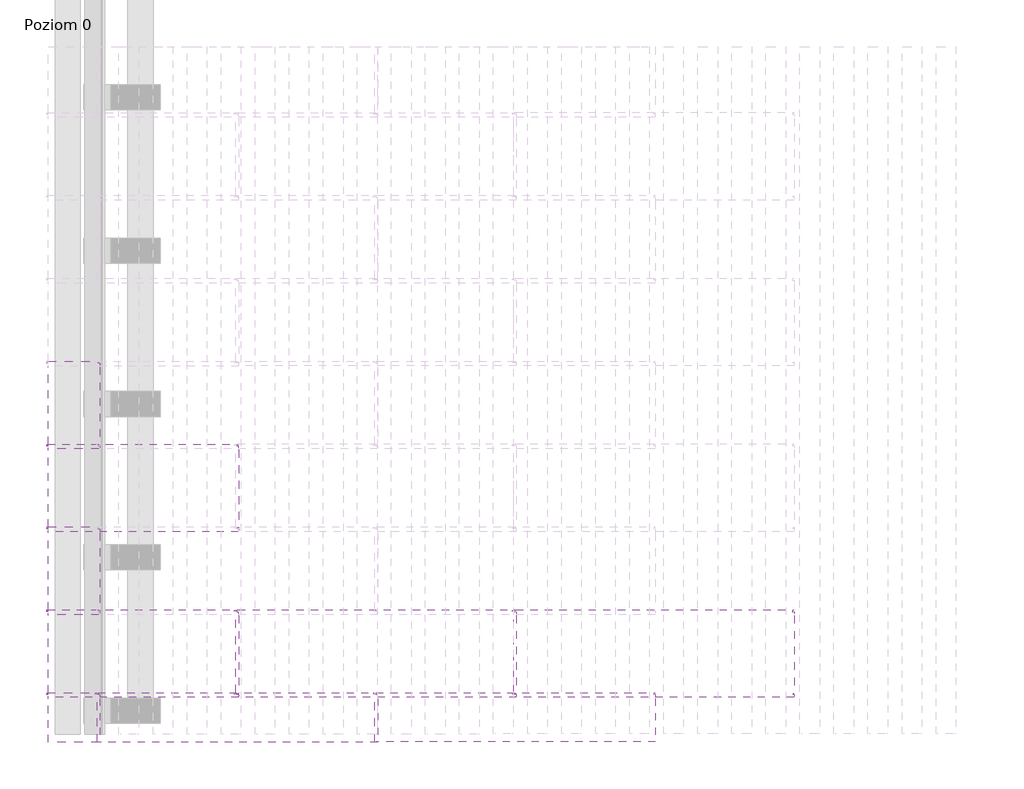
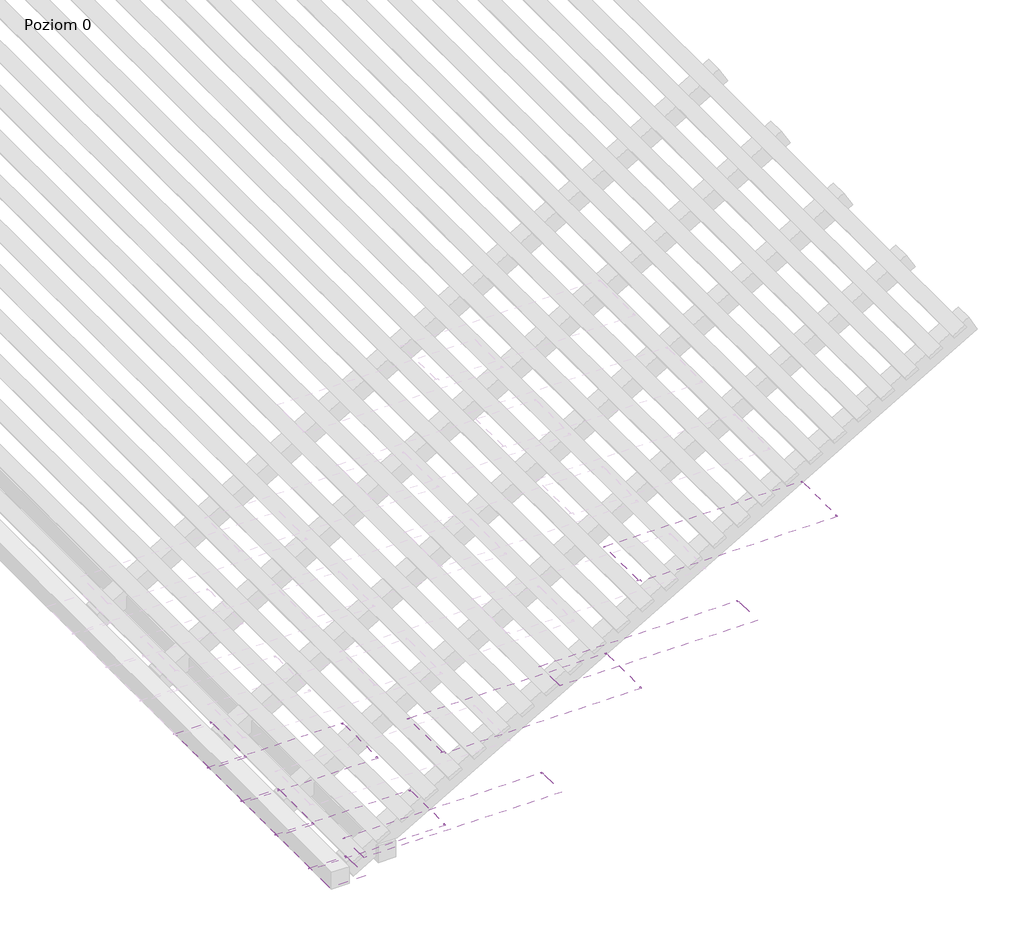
# One storey, part 1 of 4: 11 coverings.
"""IFC4 building model written with IfcOpenShell, lengths in millimetres."""

from ifc_helpers import new_model, si_unit, point, frame, frame_2d, origin, place, context, project, spatial, polyline, circle_curve, trimmed, segment, composite_curve, outline, extrude, transform, mapped, element, save
from components import covering_053faf2b, covering_ce6307ab

model = new_model("IFC4")

# Units and contexts
model_context = context("Model", 3, world=origin())
ifc_project = project(units=[si_unit("LENGTHUNIT", "METRE", prefix="MILLI")], contexts=[model_context])

# Site, building, storey
site = spatial("IfcSite", under=ifc_project)
building = spatial("IfcBuilding", under=site)
storey = spatial("IfcBuildingStorey", under=building, Name="Poziom 0", Elevation=0.0)

# Coverings
placement = place(None, origin())
element("IfcCovering", 1, ObjectType="Zintegrowany dach fotowoltaiczny FIT L.P (pojedynczy arkusz) : Zintegrowany dach fotowoltaiczny FIT L.P (pojedynczy arkusz)", at=placement, inside=storey, context=model_context, shape_type="SweptSolid", body=[
    extrude(outline(composite_curve([segment(polyline([(186.995, -233.3179044), (186.995, -234.3179044), (-88.9778378, -234.3179044), (-90.9778378, -236.3179044), (-113.5688552, -236.3179044)]), True, "CONTINUOUS"), segment(trimmed(circle_curve(frame_2d((-113.5688552, -237.1422545)), 0.82435), [point((-113.5688552, -236.3179044))], [point((-114.3932052, -237.1422545))], True, "CARTESIAN"), True, "CONTINUOUS"), segment(polyline([(-114.3932052, -237.1422545), (-114.3932052, -255.8179044)]), True, "CONTINUOUS"), segment(trimmed(circle_curve(frame_2d((-116.3932052, -255.8179044)), 2.0), [point((-114.3932052, -255.8179044))], [point((-116.3932052, -257.8179044))], False, "CARTESIAN"), True, "CONTINUOUS"), segment(polyline([(-116.3932052, -257.8179044), (-125.2167948, -257.8179044)]), True, "CONTINUOUS"), segment(trimmed(circle_curve(frame_2d((-125.2167948, -255.8179044)), 2.0), [point((-125.2167948, -257.8179044))], [point((-127.2167948, -255.8179044))], False, "CARTESIAN"), True, "CONTINUOUS"), segment(polyline([(-127.2167948, -255.8179044), (-127.2167948, -241.7424613)]), True, "CONTINUOUS"), segment(trimmed(circle_curve(frame_2d((-123.4167948, -241.7424613)), 3.8), [point((-127.2167948, -241.7424613))], [point((-125.1064079, -238.3387564))], False, "CARTESIAN"), True, "CONTINUOUS"), segment(trimmed(circle_curve(frame_2d((-125.6220787, -237.2999439)), 1.1597619), [point((-125.1064079, -238.3387564))], [point((-124.476889, -237.1166736))], True, "CARTESIAN"), True, "CONTINUOUS"), segment(polyline([(-124.476889, -237.1166736), (-125.3133048, -235.5919282), (-124.4365567, -235.1109783), (-123.604575, -236.6276405)]), True, "CONTINUOUS"), segment(trimmed(circle_curve(frame_2d((-125.1220787, -237.2999439)), 1.6597619), [point((-123.604575, -236.6276405))], [point((-124.3840904, -238.7866123))], False, "CARTESIAN"), True, "CONTINUOUS"), segment(trimmed(circle_curve(frame_2d((-122.9167948, -241.7424613)), 3.3), [point((-124.3840904, -238.7866123))], [point((-126.2167948, -241.7424613))], True, "CARTESIAN"), True, "CONTINUOUS"), segment(polyline([(-126.2167948, -241.7424613), (-126.2167948, -255.3179044)]), True, "CONTINUOUS"), segment(trimmed(circle_curve(frame_2d((-124.7167948, -255.3179044)), 1.5), [point((-126.2167948, -255.3179044))], [point((-124.7167948, -256.8179044))], True, "CARTESIAN"), True, "CONTINUOUS"), segment(polyline([(-124.7167948, -256.8179044), (-116.8932052, -256.8179044)]), True, "CONTINUOUS"), segment(trimmed(circle_curve(frame_2d((-116.8932052, -255.3179044)), 1.5), [point((-116.8932052, -256.8179044))], [point((-115.3932052, -255.3179044))], True, "CARTESIAN"), True, "CONTINUOUS"), segment(polyline([(-115.3932052, -255.3179044), (-115.3932052, -237.0542841)]), True, "CONTINUOUS"), segment(trimmed(circle_curve(frame_2d((-113.5943299, -237.1179045)), 1.8), [point((-115.3932052, -237.0542841))], [point((-113.5943299, -235.3179044))], False, "CARTESIAN"), True, "CONTINUOUS"), segment(polyline([(-113.5943299, -235.3179044), (-91.3920514, -235.3179044), (-89.3920514, -233.3179044), (186.995, -233.3179044)]), True, "CONTINUOUS")], self_intersect=False)), frame((-4911.3047573, -8515.0145918, 810.3905312), z_axis=(0.8660254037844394, 0.0, 0.4999999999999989), x_axis=(0.0, -1.0, 0.0)), (0.0, 0.0, 1.0), 376.4773133),
])
element("IfcCovering", 2, ObjectType="Zintegrowany dach fotowoltaiczny FIT L.P (pojedynczy arkusz) : Zintegrowany dach fotowoltaiczny FIT L.P (pojedynczy arkusz)", at=placement, inside=storey, context=model_context, shape_type="SweptSolid", body=[
    extrude(outline(composite_curve([segment(polyline([(-502.4735079, 0.0), (-504.4735079, -2.0), (-527.0645253, -2.0)]), True, "CONTINUOUS"), segment(trimmed(circle_curve(frame_2d((-527.0645253, -2.82435)), 0.82435), [point((-527.0645253, -2.0))], [point((-527.8888753, -2.82435))], True, "CARTESIAN"), True, "CONTINUOUS"), segment(polyline([(-527.8888753, -2.82435), (-527.8888753, -21.4999999)]), True, "CONTINUOUS"), segment(trimmed(circle_curve(frame_2d((-529.8888753, -21.4999999)), 2.0), [point((-527.8888753, -21.4999999))], [point((-529.8888753, -23.5))], False, "CARTESIAN"), True, "CONTINUOUS"), segment(polyline([(-529.8888753, -23.5), (-538.7124649, -23.5)]), True, "CONTINUOUS"), segment(trimmed(circle_curve(frame_2d((-538.7124649, -21.4999999)), 2.0), [point((-538.7124649, -23.5))], [point((-540.7124649, -21.4999999))], False, "CARTESIAN"), True, "CONTINUOUS"), segment(polyline([(-540.7124649, -21.4999999), (-540.7124649, -7.4245569)]), True, "CONTINUOUS"), segment(trimmed(circle_curve(frame_2d((-536.9124649, -7.4245569)), 3.8), [point((-540.7124649, -7.4245569))], [point((-538.602078, -4.0208519))], False, "CARTESIAN"), True, "CONTINUOUS"), segment(trimmed(circle_curve(frame_2d((-539.1177488, -2.9820394)), 1.1597619), [point((-538.602078, -4.0208519))], [point((-537.9725591, -2.798769))], True, "CARTESIAN"), True, "CONTINUOUS"), segment(polyline([(-537.9725591, -2.798769), (-538.8089749, -1.2740237), (-537.9322268, -0.7930738), (-537.1002451, -2.3097359)]), True, "CONTINUOUS"), segment(trimmed(circle_curve(frame_2d((-538.6177488, -2.9820394)), 1.6597619), [point((-537.1002451, -2.3097359))], [point((-537.8797605, -4.4687078))], False, "CARTESIAN"), True, "CONTINUOUS"), segment(trimmed(circle_curve(frame_2d((-536.4124649, -7.4245569)), 3.3), [point((-537.8797605, -4.4687078))], [point((-539.7124649, -7.4245569))], True, "CARTESIAN"), True, "CONTINUOUS"), segment(polyline([(-539.7124649, -7.4245569), (-539.7124649, -20.9999999)]), True, "CONTINUOUS"), segment(trimmed(circle_curve(frame_2d((-538.2124649, -20.9999999)), 1.5), [point((-539.7124649, -20.9999999))], [point((-538.2124649, -22.4999999))], True, "CARTESIAN"), True, "CONTINUOUS"), segment(polyline([(-538.2124649, -22.4999999), (-530.3888753, -22.4999999)]), True, "CONTINUOUS"), segment(trimmed(circle_curve(frame_2d((-530.3888753, -20.9999999)), 1.5), [point((-530.3888753, -22.4999999))], [point((-528.8888753, -20.9999999))], True, "CARTESIAN"), True, "CONTINUOUS"), segment(polyline([(-528.8888753, -20.9999999), (-528.8888753, -2.7363796)]), True, "CONTINUOUS"), segment(trimmed(circle_curve(frame_2d((-527.09, -2.8)), 1.8), [point((-528.8888753, -2.7363796))], [point((-527.09, -1.0))], False, "CARTESIAN"), True, "CONTINUOUS"), segment(polyline([(-527.09, -1.0), (-504.8877215, -1.0), (-502.8877215, 1.0), (-226.5006701, 1.0), (-226.5006701, 0.0), (-502.4735079, 0.0)]), True, "CONTINUOUS")], self_intersect=False)), frame((-4702.4247923, -8928.5102619, 1201.5544457), z_axis=(0.8660254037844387, 0.0, 0.5), x_axis=(0.0, -1.0, 0.0)), (0.0, 0.0, 1.0), 2040.0),
    extrude(outline(composite_curve([segment(trimmed(circle_curve(frame_2d((49.17565, -11.6479396)), 0.82435), [point((49.9999999, -11.6479396))], [point((49.17565, -10.8235896))], True, "CARTESIAN"), True, "CONTINUOUS"), segment(polyline([(49.17565, -10.8235896), (30.0, -10.8235896)]), True, "CONTINUOUS"), segment(trimmed(circle_curve(frame_2d((30.0, -8.8235896)), 2.0), [point((30.0, -10.8235896))], [point((28.0, -8.8235896))], False, "CARTESIAN"), True, "CONTINUOUS"), segment(polyline([(28.0, -8.8235896), (28.0, -4.0)]), True, "CONTINUOUS"), segment(trimmed(circle_curve(frame_2d((30.0, -4.0)), 2.0), [point((28.0, -4.0))], [point((30.0, -2.0))], False, "CARTESIAN"), True, "CONTINUOUS"), segment(polyline([(30.0, -2.0), (42.075443, -2.0)]), True, "CONTINUOUS"), segment(trimmed(circle_curve(frame_2d((42.075443, -5.8)), 3.8), [point((42.075443, -2.0))], [point((45.479148, -4.1103869))], False, "CARTESIAN"), True, "CONTINUOUS"), segment(trimmed(circle_curve(frame_2d((46.5179605, -3.5947161)), 1.1597619), [point((45.479148, -4.1103869))], [point((46.7012308, -4.7399058))], True, "CARTESIAN"), True, "CONTINUOUS"), segment(polyline([(46.7012308, -4.7399058), (48.2259762, -3.90349), (48.706926, -4.7802381), (47.190264, -5.6122198)]), True, "CONTINUOUS"), segment(trimmed(circle_curve(frame_2d((46.5179605, -4.0947161)), 1.6597619), [point((47.190264, -5.6122198))], [point((45.0312921, -4.8327044))], False, "CARTESIAN"), True, "CONTINUOUS"), segment(trimmed(circle_curve(frame_2d((42.075443, -6.3)), 3.3), [point((45.0312921, -4.8327044))], [point((42.075443, -3.0))], True, "CARTESIAN"), True, "CONTINUOUS"), segment(polyline([(42.075443, -3.0), (30.5, -3.0)]), True, "CONTINUOUS"), segment(trimmed(circle_curve(frame_2d((30.5, -4.5)), 1.5), [point((30.5, -3.0))], [point((29.0, -4.5))], True, "CARTESIAN"), True, "CONTINUOUS"), segment(polyline([(29.0, -4.5), (29.0, -8.3235896)]), True, "CONTINUOUS"), segment(trimmed(circle_curve(frame_2d((30.5, -8.3235896)), 1.5), [point((29.0, -8.3235896))], [point((30.5, -9.8235896))], True, "CARTESIAN"), True, "CONTINUOUS"), segment(polyline([(30.5, -9.8235896), (49.2636204, -9.8235896)]), True, "CONTINUOUS"), segment(trimmed(circle_curve(frame_2d((49.1999999, -11.6224649)), 1.8), [point((49.2636204, -9.8235896))], [point((50.9999999, -11.6224649))], False, "CARTESIAN"), True, "CONTINUOUS"), segment(polyline([(50.9999999, -11.6224649), (50.9999999, -314.2117948), (49.9999999, -314.2117948), (49.9999999, -11.6479396)]), True, "CONTINUOUS")], self_intersect=False)), frame((-4744.2453003, -8387.797797, 1233.9896904), z_axis=(0.8660254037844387, 0.0, 0.5), x_axis=(0.5, 0.0, -0.8660254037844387)), (0.0, 0.0, 1.0), 30.0),
])
element("IfcCovering", 3, ObjectType="Zintegrowany dach fotowoltaiczny FIT L.P (pojedynczy arkusz) : Zintegrowany dach fotowoltaiczny FIT L.P (pojedynczy arkusz)", at=placement, inside=storey, context=model_context, shape_type="SweptSolid", body=[
    extrude(outline(composite_curve([segment(polyline([(-502.4735079, 0.0), (-504.4735079, -2.0), (-527.0645253, -2.0)]), True, "CONTINUOUS"), segment(trimmed(circle_curve(frame_2d((-527.0645253, -2.82435)), 0.82435), [point((-527.0645253, -2.0))], [point((-527.8888753, -2.82435))], True, "CARTESIAN"), True, "CONTINUOUS"), segment(polyline([(-527.8888753, -2.82435), (-527.8888753, -21.4999999)]), True, "CONTINUOUS"), segment(trimmed(circle_curve(frame_2d((-529.8888753, -21.4999999)), 2.0), [point((-527.8888753, -21.4999999))], [point((-529.8888753, -23.5))], False, "CARTESIAN"), True, "CONTINUOUS"), segment(polyline([(-529.8888753, -23.5), (-538.7124649, -23.5)]), True, "CONTINUOUS"), segment(trimmed(circle_curve(frame_2d((-538.7124649, -21.4999999)), 2.0), [point((-538.7124649, -23.5))], [point((-540.7124649, -21.4999999))], False, "CARTESIAN"), True, "CONTINUOUS"), segment(polyline([(-540.7124649, -21.4999999), (-540.7124649, -7.4245569)]), True, "CONTINUOUS"), segment(trimmed(circle_curve(frame_2d((-536.9124649, -7.4245569)), 3.8), [point((-540.7124649, -7.4245569))], [point((-538.602078, -4.0208519))], False, "CARTESIAN"), True, "CONTINUOUS"), segment(trimmed(circle_curve(frame_2d((-539.1177488, -2.9820395)), 1.1597619), [point((-538.602078, -4.0208519))], [point((-537.9725591, -2.7987691))], True, "CARTESIAN"), True, "CONTINUOUS"), segment(polyline([(-537.9725591, -2.7987691), (-538.8089749, -1.2740237), (-537.9322268, -0.7930739), (-537.1002451, -2.309736)]), True, "CONTINUOUS"), segment(trimmed(circle_curve(frame_2d((-538.6177488, -2.9820395)), 1.6597619), [point((-537.1002451, -2.309736))], [point((-537.8797605, -4.4687079))], False, "CARTESIAN"), True, "CONTINUOUS"), segment(trimmed(circle_curve(frame_2d((-536.4124649, -7.4245569)), 3.3), [point((-537.8797605, -4.4687079))], [point((-539.7124649, -7.4245569))], True, "CARTESIAN"), True, "CONTINUOUS"), segment(polyline([(-539.7124649, -7.4245569), (-539.7124649, -20.9999999)]), True, "CONTINUOUS"), segment(trimmed(circle_curve(frame_2d((-538.2124649, -20.9999999)), 1.5), [point((-539.7124649, -20.9999999))], [point((-538.2124649, -22.4999999))], True, "CARTESIAN"), True, "CONTINUOUS"), segment(polyline([(-538.2124649, -22.4999999), (-530.3888753, -22.4999999)]), True, "CONTINUOUS"), segment(trimmed(circle_curve(frame_2d((-530.3888753, -20.9999999)), 1.5), [point((-530.3888753, -22.4999999))], [point((-528.8888753, -20.9999999))], True, "CARTESIAN"), True, "CONTINUOUS"), segment(polyline([(-528.8888753, -20.9999999), (-528.8888753, -2.7363796)]), True, "CONTINUOUS"), segment(trimmed(circle_curve(frame_2d((-527.09, -2.8)), 1.8), [point((-528.8888753, -2.7363796))], [point((-527.09, -1.0))], False, "CARTESIAN"), True, "CONTINUOUS"), segment(polyline([(-527.09, -1.0), (-504.8877215, -1.0), (-502.8877215, 1.0), (-226.5006701, 1.0), (-226.5006701, 0.0), (-502.4735079, 0.0)]), True, "CONTINUOUS")], self_intersect=False)), frame((-2935.7329685, -8928.5102619, 2221.5544457), z_axis=(0.8660254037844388, 0.0, 0.49999999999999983), x_axis=(0.0, -1.0, 0.0)), (0.0, 0.0, 1.0), 2040.0),
    extrude(outline(composite_curve([segment(trimmed(circle_curve(frame_2d((49.17565, -11.6479396)), 0.82435), [point((49.9999999, -11.6479396))], [point((49.17565, -10.8235896))], True, "CARTESIAN"), True, "CONTINUOUS"), segment(polyline([(49.17565, -10.8235896), (30.0, -10.8235896)]), True, "CONTINUOUS"), segment(trimmed(circle_curve(frame_2d((30.0, -8.8235896)), 2.0), [point((30.0, -10.8235896))], [point((28.0, -8.8235896))], False, "CARTESIAN"), True, "CONTINUOUS"), segment(polyline([(28.0, -8.8235896), (28.0, -4.0)]), True, "CONTINUOUS"), segment(trimmed(circle_curve(frame_2d((30.0, -4.0)), 2.0), [point((28.0, -4.0))], [point((30.0, -2.0))], False, "CARTESIAN"), True, "CONTINUOUS"), segment(polyline([(30.0, -2.0), (42.075443, -2.0)]), True, "CONTINUOUS"), segment(trimmed(circle_curve(frame_2d((42.075443, -5.8)), 3.8), [point((42.075443, -2.0))], [point((45.479148, -4.1103869))], False, "CARTESIAN"), True, "CONTINUOUS"), segment(trimmed(circle_curve(frame_2d((46.5179605, -3.5947161)), 1.1597619), [point((45.479148, -4.1103869))], [point((46.7012308, -4.7399058))], True, "CARTESIAN"), True, "CONTINUOUS"), segment(polyline([(46.7012308, -4.7399058), (48.2259762, -3.90349), (48.706926, -4.7802381), (47.190264, -5.6122198)]), True, "CONTINUOUS"), segment(trimmed(circle_curve(frame_2d((46.5179605, -4.0947161)), 1.6597619), [point((47.190264, -5.6122198))], [point((45.0312921, -4.8327044))], False, "CARTESIAN"), True, "CONTINUOUS"), segment(trimmed(circle_curve(frame_2d((42.075443, -6.3)), 3.3), [point((45.0312921, -4.8327044))], [point((42.075443, -3.0))], True, "CARTESIAN"), True, "CONTINUOUS"), segment(polyline([(42.075443, -3.0), (30.5, -3.0)]), True, "CONTINUOUS"), segment(trimmed(circle_curve(frame_2d((30.5, -4.5)), 1.5), [point((30.5, -3.0))], [point((29.0, -4.5))], True, "CARTESIAN"), True, "CONTINUOUS"), segment(polyline([(29.0, -4.5), (29.0, -8.3235896)]), True, "CONTINUOUS"), segment(trimmed(circle_curve(frame_2d((30.5, -8.3235896)), 1.5), [point((29.0, -8.3235896))], [point((30.5, -9.8235896))], True, "CARTESIAN"), True, "CONTINUOUS"), segment(polyline([(30.5, -9.8235896), (49.2636204, -9.8235896)]), True, "CONTINUOUS"), segment(trimmed(circle_curve(frame_2d((49.1999999, -11.6224649)), 1.8), [point((49.2636204, -9.8235896))], [point((50.9999999, -11.6224649))], False, "CARTESIAN"), True, "CONTINUOUS"), segment(polyline([(50.9999999, -11.6224649), (50.9999999, -314.2117948), (49.9999999, -314.2117948), (49.9999999, -11.6479396)]), True, "CONTINUOUS")], self_intersect=False)), frame((-2977.5534766, -8387.797797, 2253.9896904), z_axis=(0.8660254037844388, 0.0, 0.49999999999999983), x_axis=(0.49999999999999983, 0.0, -0.8660254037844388)), (0.0, 0.0, 1.0), 30.0),
])
element("IfcCovering", 4, ObjectType="Zintegrowany dach fotowoltaiczny FIT L.P (pojedynczy arkusz) : Zintegrowany dach fotowoltaiczny FIT L.P (pojedynczy arkusz)", at=placement, inside=storey, context=model_context, shape_type="SweptSolid", body=[
    extrude(outline(composite_curve([segment(polyline([(288.0882052, -764.3254516), (270.8006701, -764.3254516)]), True, "CONTINUOUS"), segment(trimmed(circle_curve(frame_2d((270.8006701, -767.1254516)), 2.8), [point((270.8006701, -764.3254516))], [point((268.0006701, -767.1254516))], True, "CARTESIAN"), True, "CONTINUOUS"), segment(polyline([(268.0006701, -767.1254516), (268.0006701, -784.9194843)]), True, "CONTINUOUS"), segment(trimmed(circle_curve(frame_2d((266.3873432, -784.7092324)), 1.6269694), [point((268.0006701, -784.9194843))], [point((264.9716419, -785.5109926))], False, "CARTESIAN"), True, "CONTINUOUS"), segment(polyline([(264.9716419, -785.5109926), (259.5147607, -772.9478756)]), True, "CONTINUOUS"), segment(trimmed(circle_curve(frame_2d((261.4782052, -771.7500084)), 2.3), [point((259.5147607, -772.9478756))], [point((260.424286, -769.705686))], False, "CARTESIAN"), True, "CONTINUOUS"), segment(polyline([(260.424286, -769.705686), (262.0969852, -769.0301624)]), True, "CONTINUOUS"), segment(trimmed(circle_curve(frame_2d((261.7598094, -768.195264)), 0.9004126), [point((262.0969852, -769.0301624))], [point((262.5492444, -767.7622108))], True, "CARTESIAN"), True, "CONTINUOUS"), segment(polyline([(262.5492444, -767.7622108), (260.6639723, -764.3254516), (-231.6728378, -764.3254516), (-233.6728378, -766.3254516), (-256.2638552, -766.3254516)]), True, "CONTINUOUS"), segment(trimmed(circle_curve(frame_2d((-256.2638552, -767.1498016)), 0.82435), [point((-256.2638552, -766.3254516))], [point((-257.0882052, -767.1498016))], True, "CARTESIAN"), True, "CONTINUOUS"), segment(polyline([(-257.0882052, -767.1498016), (-257.0882052, -785.8254516)]), True, "CONTINUOUS"), segment(trimmed(circle_curve(frame_2d((-259.0882052, -785.8254516)), 2.0), [point((-257.0882052, -785.8254516))], [point((-259.0882052, -787.8254516))], False, "CARTESIAN"), True, "CONTINUOUS"), segment(polyline([(-259.0882052, -787.8254516), (-267.9117948, -787.8254516)]), True, "CONTINUOUS"), segment(trimmed(circle_curve(frame_2d((-267.9117948, -785.8254516)), 2.0), [point((-267.9117948, -787.8254516))], [point((-269.9117948, -785.8254516))], False, "CARTESIAN"), True, "CONTINUOUS"), segment(polyline([(-269.9117948, -785.8254516), (-269.9117948, -771.7500084)]), True, "CONTINUOUS"), segment(trimmed(circle_curve(frame_2d((-266.1117948, -771.7500084)), 3.8), [point((-269.9117948, -771.7500084))], [point((-267.8014079, -768.3463036))], False, "CARTESIAN"), True, "CONTINUOUS"), segment(trimmed(circle_curve(frame_2d((-268.3170787, -767.3074911)), 1.1597619), [point((-267.8014079, -768.3463036))], [point((-267.171889, -767.1242207))], True, "CARTESIAN"), True, "CONTINUOUS"), segment(polyline([(-267.171889, -767.1242207), (-268.0083048, -765.5994754), (-267.1315567, -765.1185255), (-266.299575, -766.6351876)]), True, "CONTINUOUS"), segment(trimmed(circle_curve(frame_2d((-267.8170787, -767.3074911)), 1.6597619), [point((-266.299575, -766.6351876))], [point((-267.0790904, -768.7941595))], False, "CARTESIAN"), True, "CONTINUOUS"), segment(trimmed(circle_curve(frame_2d((-265.6117948, -771.7500084)), 3.3), [point((-267.0790904, -768.7941595))], [point((-268.9117948, -771.7500084))], True, "CARTESIAN"), True, "CONTINUOUS"), segment(polyline([(-268.9117948, -771.7500084), (-268.9117948, -785.3254516)]), True, "CONTINUOUS"), segment(trimmed(circle_curve(frame_2d((-267.4117948, -785.3254516)), 1.5), [point((-268.9117948, -785.3254516))], [point((-267.4117948, -786.8254516))], True, "CARTESIAN"), True, "CONTINUOUS"), segment(polyline([(-267.4117948, -786.8254516), (-259.5882052, -786.8254516)]), True, "CONTINUOUS"), segment(trimmed(circle_curve(frame_2d((-259.5882052, -785.3254516)), 1.5), [point((-259.5882052, -786.8254516))], [point((-258.0882052, -785.3254516))], True, "CARTESIAN"), True, "CONTINUOUS"), segment(polyline([(-258.0882052, -785.3254516), (-258.0882052, -767.0618312)]), True, "CONTINUOUS"), segment(trimmed(circle_curve(frame_2d((-256.2893299, -767.1254516)), 1.8), [point((-258.0882052, -767.0618312))], [point((-256.2893299, -765.3254516))], False, "CARTESIAN"), True, "CONTINUOUS"), segment(polyline([(-256.2893299, -765.3254516), (-234.0870514, -765.3254516), (-232.0870514, -763.3254516), (260.3034181, -763.3254516)]), True, "CONTINUOUS"), segment(trimmed(circle_curve(frame_2d((260.0800912, -765.3129437)), 2.0), [point((260.3034181, -763.3254516))], [point((261.7119395, -764.1566258))], False, "CARTESIAN"), True, "CONTINUOUS"), segment(polyline([(261.7119395, -764.1566258), (263.6966367, -767.774632)]), True, "CONTINUOUS"), segment(trimmed(circle_curve(frame_2d((262.4688276, -768.4481602)), 1.4004126), [point((263.6966367, -767.774632))], [point((262.9932374, -769.7466784))], False, "CARTESIAN"), True, "CONTINUOUS"), segment(polyline([(262.9932374, -769.7466784), (260.8475944, -770.6132015)]), True, "CONTINUOUS"), segment(trimmed(circle_curve(frame_2d((261.4782052, -771.7500084)), 1.3), [point((260.8475944, -770.6132015))], [point((260.4005072, -772.4770346))], True, "CARTESIAN"), True, "CONTINUOUS"), segment(polyline([(260.4005072, -772.4770346), (265.8628688, -785.0527688)]), True, "CONTINUOUS"), segment(trimmed(circle_curve(frame_2d((266.3873432, -784.7092324)), 0.6269694), [point((265.8628688, -785.0527688))], [point((267.0006701, -784.8393124))], True, "CARTESIAN"), True, "CONTINUOUS"), segment(polyline([(267.0006701, -784.8393124), (267.0006701, -767.1254516)]), True, "CONTINUOUS"), segment(trimmed(circle_curve(frame_2d((270.8006701, -767.1254516)), 3.8), [point((267.0006701, -767.1254516))], [point((270.8006701, -763.3254516))], False, "CARTESIAN"), True, "CONTINUOUS"), segment(polyline([(270.8006701, -763.3254516), (288.0882052, -763.3254516), (288.0882052, -764.3254516)]), True, "CONTINUOUS")], self_intersect=False)), frame((-4646.3009837, -8130.7095918, 351.3905312), z_axis=(0.8660254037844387, 0.0, 0.49999999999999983), x_axis=(0.0, -1.0, 0.0)), (0.0, 0.0, 1.0), 1396.4773133),
])
element("IfcCovering", 5, ObjectType="Zintegrowany dach fotowoltaiczny FIT L.P (pojedynczy arkusz) : Zintegrowany dach fotowoltaiczny FIT L.P (pojedynczy arkusz)", at=placement, inside=storey, context=model_context, shape_type="SweptSolid", body=[
    extrude(outline(composite_curve([segment(polyline([(288.0882052, -234.3179044), (270.8006701, -234.3179044)]), True, "CONTINUOUS"), segment(trimmed(circle_curve(frame_2d((270.8006701, -237.1179045)), 2.8), [point((270.8006701, -234.3179044))], [point((268.0006701, -237.1179045))], True, "CARTESIAN"), True, "CONTINUOUS"), segment(polyline([(268.0006701, -237.1179045), (268.0006701, -254.9119372)]), True, "CONTINUOUS"), segment(trimmed(circle_curve(frame_2d((266.3873432, -254.7016853)), 1.6269694), [point((268.0006701, -254.9119372))], [point((264.9716419, -255.5034454))], False, "CARTESIAN"), True, "CONTINUOUS"), segment(polyline([(264.9716419, -255.5034454), (259.5147607, -242.9403285)]), True, "CONTINUOUS"), segment(trimmed(circle_curve(frame_2d((261.4782052, -241.7424613)), 2.3), [point((259.5147607, -242.9403285))], [point((260.424286, -239.6981389))], False, "CARTESIAN"), True, "CONTINUOUS"), segment(polyline([(260.424286, -239.6981389), (262.0969852, -239.0226153)]), True, "CONTINUOUS"), segment(trimmed(circle_curve(frame_2d((261.7598094, -238.1877169)), 0.9004126), [point((262.0969852, -239.0226153))], [point((262.5492444, -237.7546636))], True, "CARTESIAN"), True, "CONTINUOUS"), segment(polyline([(262.5492444, -237.7546636), (260.6639723, -234.3179044), (-231.6728378, -234.3179044), (-233.6728378, -236.3179044), (-256.2638552, -236.3179044)]), True, "CONTINUOUS"), segment(trimmed(circle_curve(frame_2d((-256.2638552, -237.1422545)), 0.82435), [point((-256.2638552, -236.3179044))], [point((-257.0882052, -237.1422545))], True, "CARTESIAN"), True, "CONTINUOUS"), segment(polyline([(-257.0882052, -237.1422545), (-257.0882052, -255.8179044)]), True, "CONTINUOUS"), segment(trimmed(circle_curve(frame_2d((-259.0882052, -255.8179044)), 2.0), [point((-257.0882052, -255.8179044))], [point((-259.0882052, -257.8179044))], False, "CARTESIAN"), True, "CONTINUOUS"), segment(polyline([(-259.0882052, -257.8179044), (-267.9117948, -257.8179044)]), True, "CONTINUOUS"), segment(trimmed(circle_curve(frame_2d((-267.9117948, -255.8179044)), 2.0), [point((-267.9117948, -257.8179044))], [point((-269.9117948, -255.8179044))], False, "CARTESIAN"), True, "CONTINUOUS"), segment(polyline([(-269.9117948, -255.8179044), (-269.9117948, -241.7424613)]), True, "CONTINUOUS"), segment(trimmed(circle_curve(frame_2d((-266.1117948, -241.7424613)), 3.8), [point((-269.9117948, -241.7424613))], [point((-267.8014079, -238.3387564))], False, "CARTESIAN"), True, "CONTINUOUS"), segment(trimmed(circle_curve(frame_2d((-268.3170787, -237.2999439)), 1.1597619), [point((-267.8014079, -238.3387564))], [point((-267.171889, -237.1166736))], True, "CARTESIAN"), True, "CONTINUOUS"), segment(polyline([(-267.171889, -237.1166736), (-268.0083048, -235.5919282), (-267.1315567, -235.1109783), (-266.299575, -236.6276405)]), True, "CONTINUOUS"), segment(trimmed(circle_curve(frame_2d((-267.8170787, -237.2999439)), 1.6597619), [point((-266.299575, -236.6276405))], [point((-267.0790904, -238.7866123))], False, "CARTESIAN"), True, "CONTINUOUS"), segment(trimmed(circle_curve(frame_2d((-265.6117948, -241.7424613)), 3.3), [point((-267.0790904, -238.7866123))], [point((-268.9117948, -241.7424613))], True, "CARTESIAN"), True, "CONTINUOUS"), segment(polyline([(-268.9117948, -241.7424613), (-268.9117948, -255.3179044)]), True, "CONTINUOUS"), segment(trimmed(circle_curve(frame_2d((-267.4117948, -255.3179044)), 1.5), [point((-268.9117948, -255.3179044))], [point((-267.4117948, -256.8179044))], True, "CARTESIAN"), True, "CONTINUOUS"), segment(polyline([(-267.4117948, -256.8179044), (-259.5882052, -256.8179044)]), True, "CONTINUOUS"), segment(trimmed(circle_curve(frame_2d((-259.5882052, -255.3179044)), 1.5), [point((-259.5882052, -256.8179044))], [point((-258.0882052, -255.3179044))], True, "CARTESIAN"), True, "CONTINUOUS"), segment(polyline([(-258.0882052, -255.3179044), (-258.0882052, -237.0542841)]), True, "CONTINUOUS"), segment(trimmed(circle_curve(frame_2d((-256.2893299, -237.1179045)), 1.8), [point((-258.0882052, -237.0542841))], [point((-256.2893299, -235.3179044))], False, "CARTESIAN"), True, "CONTINUOUS"), segment(polyline([(-256.2893299, -235.3179044), (-234.0870514, -235.3179044), (-232.0870514, -233.3179044), (260.3034181, -233.3179044)]), True, "CONTINUOUS"), segment(trimmed(circle_curve(frame_2d((260.0800912, -235.3053966)), 2.0), [point((260.3034181, -233.3179044))], [point((261.7119395, -234.1490787))], False, "CARTESIAN"), True, "CONTINUOUS"), segment(polyline([(261.7119395, -234.1490787), (263.6966367, -237.7670849)]), True, "CONTINUOUS"), segment(trimmed(circle_curve(frame_2d((262.4688276, -238.440613)), 1.4004126), [point((263.6966367, -237.7670849))], [point((262.9932374, -239.7391313))], False, "CARTESIAN"), True, "CONTINUOUS"), segment(polyline([(262.9932374, -239.7391313), (260.8475944, -240.6056544)]), True, "CONTINUOUS"), segment(trimmed(circle_curve(frame_2d((261.4782052, -241.7424613)), 1.3), [point((260.8475944, -240.6056544))], [point((260.4005072, -242.4694875))], True, "CARTESIAN"), True, "CONTINUOUS"), segment(polyline([(260.4005072, -242.4694875), (265.8628688, -255.0452217)]), True, "CONTINUOUS"), segment(trimmed(circle_curve(frame_2d((266.3873432, -254.7016853)), 0.6269694), [point((265.8628688, -255.0452217))], [point((267.0006701, -254.8317652))], True, "CARTESIAN"), True, "CONTINUOUS"), segment(polyline([(267.0006701, -254.8317652), (267.0006701, -237.1179045)]), True, "CONTINUOUS"), segment(trimmed(circle_curve(frame_2d((270.8006701, -237.1179045)), 3.8), [point((267.0006701, -237.1179045))], [point((270.8006701, -233.3179044))], False, "CARTESIAN"), True, "CONTINUOUS"), segment(polyline([(270.8006701, -233.3179044), (288.0882052, -233.3179044), (288.0882052, -234.3179044)]), True, "CONTINUOUS")], self_intersect=False)), frame((-4911.3047573, -7603.7095918, 810.3905312), z_axis=(0.8660254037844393, 0.0, 0.49999999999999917), x_axis=(0.0, -1.0, 0.0)), (0.0, 0.0, 1.0), 376.4773133),
])
element("IfcCovering", 6, ObjectType="Zintegrowany dach fotowoltaiczny FIT L.P (pojedynczy arkusz) : Zintegrowany dach fotowoltaiczny FIT L.P (pojedynczy arkusz)", at=placement, inside=storey, context=model_context, shape_type="SweptSolid", body=[
    extrude(outline(composite_curve([segment(polyline([(288.0882052, -764.3254516), (270.8006701, -764.3254516)]), True, "CONTINUOUS"), segment(trimmed(circle_curve(frame_2d((270.8006701, -767.1254516)), 2.8), [point((270.8006701, -764.3254516))], [point((268.0006701, -767.1254516))], True, "CARTESIAN"), True, "CONTINUOUS"), segment(polyline([(268.0006701, -767.1254516), (268.0006701, -784.9194843)]), True, "CONTINUOUS"), segment(trimmed(circle_curve(frame_2d((266.3873432, -784.7092324)), 1.6269694), [point((268.0006701, -784.9194843))], [point((264.9716419, -785.5109926))], False, "CARTESIAN"), True, "CONTINUOUS"), segment(polyline([(264.9716419, -785.5109926), (259.5147607, -772.9478756)]), True, "CONTINUOUS"), segment(trimmed(circle_curve(frame_2d((261.4782052, -771.7500084)), 2.3), [point((259.5147607, -772.9478756))], [point((260.424286, -769.705686))], False, "CARTESIAN"), True, "CONTINUOUS"), segment(polyline([(260.424286, -769.705686), (262.0969852, -769.0301624)]), True, "CONTINUOUS"), segment(trimmed(circle_curve(frame_2d((261.7598094, -768.195264)), 0.9004126), [point((262.0969852, -769.0301624))], [point((262.5492444, -767.7622108))], True, "CARTESIAN"), True, "CONTINUOUS"), segment(polyline([(262.5492444, -767.7622108), (260.6639723, -764.3254516), (-231.6728378, -764.3254516), (-233.6728378, -766.3254516), (-256.2638552, -766.3254516)]), True, "CONTINUOUS"), segment(trimmed(circle_curve(frame_2d((-256.2638552, -767.1498016)), 0.82435), [point((-256.2638552, -766.3254516))], [point((-257.0882052, -767.1498016))], True, "CARTESIAN"), True, "CONTINUOUS"), segment(polyline([(-257.0882052, -767.1498016), (-257.0882052, -785.8254516)]), True, "CONTINUOUS"), segment(trimmed(circle_curve(frame_2d((-259.0882052, -785.8254516)), 2.0), [point((-257.0882052, -785.8254516))], [point((-259.0882052, -787.8254516))], False, "CARTESIAN"), True, "CONTINUOUS"), segment(polyline([(-259.0882052, -787.8254516), (-267.9117948, -787.8254516)]), True, "CONTINUOUS"), segment(trimmed(circle_curve(frame_2d((-267.9117948, -785.8254516)), 2.0), [point((-267.9117948, -787.8254516))], [point((-269.9117948, -785.8254516))], False, "CARTESIAN"), True, "CONTINUOUS"), segment(polyline([(-269.9117948, -785.8254516), (-269.9117948, -771.7500084)]), True, "CONTINUOUS"), segment(trimmed(circle_curve(frame_2d((-266.1117948, -771.7500084)), 3.8), [point((-269.9117948, -771.7500084))], [point((-267.8014079, -768.3463036))], False, "CARTESIAN"), True, "CONTINUOUS"), segment(trimmed(circle_curve(frame_2d((-268.3170787, -767.3074911)), 1.1597619), [point((-267.8014079, -768.3463036))], [point((-267.171889, -767.1242207))], True, "CARTESIAN"), True, "CONTINUOUS"), segment(polyline([(-267.171889, -767.1242207), (-268.0083048, -765.5994754), (-267.1315567, -765.1185255), (-266.299575, -766.6351876)]), True, "CONTINUOUS"), segment(trimmed(circle_curve(frame_2d((-267.8170787, -767.3074911)), 1.6597619), [point((-266.299575, -766.6351876))], [point((-267.0790904, -768.7941595))], False, "CARTESIAN"), True, "CONTINUOUS"), segment(trimmed(circle_curve(frame_2d((-265.6117948, -771.7500084)), 3.3), [point((-267.0790904, -768.7941595))], [point((-268.9117948, -771.7500084))], True, "CARTESIAN"), True, "CONTINUOUS"), segment(polyline([(-268.9117948, -771.7500084), (-268.9117948, -785.3254516)]), True, "CONTINUOUS"), segment(trimmed(circle_curve(frame_2d((-267.4117948, -785.3254516)), 1.5), [point((-268.9117948, -785.3254516))], [point((-267.4117948, -786.8254516))], True, "CARTESIAN"), True, "CONTINUOUS"), segment(polyline([(-267.4117948, -786.8254516), (-259.5882052, -786.8254516)]), True, "CONTINUOUS"), segment(trimmed(circle_curve(frame_2d((-259.5882052, -785.3254516)), 1.5), [point((-259.5882052, -786.8254516))], [point((-258.0882052, -785.3254516))], True, "CARTESIAN"), True, "CONTINUOUS"), segment(polyline([(-258.0882052, -785.3254516), (-258.0882052, -767.0618312)]), True, "CONTINUOUS"), segment(trimmed(circle_curve(frame_2d((-256.2893299, -767.1254516)), 1.8), [point((-258.0882052, -767.0618312))], [point((-256.2893299, -765.3254516))], False, "CARTESIAN"), True, "CONTINUOUS"), segment(polyline([(-256.2893299, -765.3254516), (-234.0870514, -765.3254516), (-232.0870514, -763.3254516), (260.3034181, -763.3254516)]), True, "CONTINUOUS"), segment(trimmed(circle_curve(frame_2d((260.0800912, -765.3129437)), 2.0), [point((260.3034181, -763.3254516))], [point((261.7119395, -764.1566258))], False, "CARTESIAN"), True, "CONTINUOUS"), segment(polyline([(261.7119395, -764.1566258), (263.6966367, -767.774632)]), True, "CONTINUOUS"), segment(trimmed(circle_curve(frame_2d((262.4688276, -768.4481602)), 1.4004126), [point((263.6966367, -767.774632))], [point((262.9932374, -769.7466784))], False, "CARTESIAN"), True, "CONTINUOUS"), segment(polyline([(262.9932374, -769.7466784), (260.8475944, -770.6132015)]), True, "CONTINUOUS"), segment(trimmed(circle_curve(frame_2d((261.4782052, -771.7500084)), 1.3), [point((260.8475944, -770.6132015))], [point((260.4005072, -772.4770346))], True, "CARTESIAN"), True, "CONTINUOUS"), segment(polyline([(260.4005072, -772.4770346), (265.8628688, -785.0527688)]), True, "CONTINUOUS"), segment(trimmed(circle_curve(frame_2d((266.3873432, -784.7092324)), 0.6269694), [point((265.8628688, -785.0527688))], [point((267.0006701, -784.8393124))], True, "CARTESIAN"), True, "CONTINUOUS"), segment(polyline([(267.0006701, -784.8393124), (267.0006701, -767.1254516)]), True, "CONTINUOUS"), segment(trimmed(circle_curve(frame_2d((270.8006701, -767.1254516)), 3.8), [point((267.0006701, -767.1254516))], [point((270.8006701, -763.3254516))], False, "CARTESIAN"), True, "CONTINUOUS"), segment(polyline([(270.8006701, -763.3254516), (288.0882052, -763.3254516), (288.0882052, -764.3254516)]), True, "CONTINUOUS")], self_intersect=False)), frame((-4646.3009837, -7076.7095918, 351.3905312), z_axis=(0.8660254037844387, 0.0, 0.5000000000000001), x_axis=(0.0, -1.0, 0.0)), (0.0, 0.0, 1.0), 1396.4773133),
])
element("IfcCovering", 7, ObjectType="Zintegrowany dach fotowoltaiczny FIT L.P (pojedynczy arkusz) : Zintegrowany dach fotowoltaiczny FIT L.P (pojedynczy arkusz)", at=placement, inside=storey, context=model_context, shape_type="SweptSolid", body=[
    extrude(outline(composite_curve([segment(polyline([(288.0882052, -234.3179044), (270.8006701, -234.3179044)]), True, "CONTINUOUS"), segment(trimmed(circle_curve(frame_2d((270.8006701, -237.1179045)), 2.8), [point((270.8006701, -234.3179044))], [point((268.0006701, -237.1179045))], True, "CARTESIAN"), True, "CONTINUOUS"), segment(polyline([(268.0006701, -237.1179045), (268.0006701, -254.9119372)]), True, "CONTINUOUS"), segment(trimmed(circle_curve(frame_2d((266.3873432, -254.7016853)), 1.6269694), [point((268.0006701, -254.9119372))], [point((264.9716419, -255.5034454))], False, "CARTESIAN"), True, "CONTINUOUS"), segment(polyline([(264.9716419, -255.5034454), (259.5147607, -242.9403285)]), True, "CONTINUOUS"), segment(trimmed(circle_curve(frame_2d((261.4782052, -241.7424613)), 2.3), [point((259.5147607, -242.9403285))], [point((260.424286, -239.6981389))], False, "CARTESIAN"), True, "CONTINUOUS"), segment(polyline([(260.424286, -239.6981389), (262.0969852, -239.0226153)]), True, "CONTINUOUS"), segment(trimmed(circle_curve(frame_2d((261.7598094, -238.1877169)), 0.9004126), [point((262.0969852, -239.0226153))], [point((262.5492444, -237.7546636))], True, "CARTESIAN"), True, "CONTINUOUS"), segment(polyline([(262.5492444, -237.7546636), (260.6639723, -234.3179044), (-231.6728378, -234.3179044), (-233.6728378, -236.3179044), (-256.2638552, -236.3179044)]), True, "CONTINUOUS"), segment(trimmed(circle_curve(frame_2d((-256.2638552, -237.1422545)), 0.82435), [point((-256.2638552, -236.3179044))], [point((-257.0882052, -237.1422545))], True, "CARTESIAN"), True, "CONTINUOUS"), segment(polyline([(-257.0882052, -237.1422545), (-257.0882052, -255.8179044)]), True, "CONTINUOUS"), segment(trimmed(circle_curve(frame_2d((-259.0882052, -255.8179044)), 2.0), [point((-257.0882052, -255.8179044))], [point((-259.0882052, -257.8179044))], False, "CARTESIAN"), True, "CONTINUOUS"), segment(polyline([(-259.0882052, -257.8179044), (-267.9117948, -257.8179044)]), True, "CONTINUOUS"), segment(trimmed(circle_curve(frame_2d((-267.9117948, -255.8179044)), 2.0), [point((-267.9117948, -257.8179044))], [point((-269.9117948, -255.8179044))], False, "CARTESIAN"), True, "CONTINUOUS"), segment(polyline([(-269.9117948, -255.8179044), (-269.9117948, -241.7424613)]), True, "CONTINUOUS"), segment(trimmed(circle_curve(frame_2d((-266.1117948, -241.7424613)), 3.8), [point((-269.9117948, -241.7424613))], [point((-267.8014079, -238.3387564))], False, "CARTESIAN"), True, "CONTINUOUS"), segment(trimmed(circle_curve(frame_2d((-268.3170787, -237.2999439)), 1.1597619), [point((-267.8014079, -238.3387564))], [point((-267.171889, -237.1166736))], True, "CARTESIAN"), True, "CONTINUOUS"), segment(polyline([(-267.171889, -237.1166736), (-268.0083048, -235.5919282), (-267.1315567, -235.1109783), (-266.299575, -236.6276405)]), True, "CONTINUOUS"), segment(trimmed(circle_curve(frame_2d((-267.8170787, -237.2999439)), 1.6597619), [point((-266.299575, -236.6276405))], [point((-267.0790904, -238.7866123))], False, "CARTESIAN"), True, "CONTINUOUS"), segment(trimmed(circle_curve(frame_2d((-265.6117948, -241.7424613)), 3.3), [point((-267.0790904, -238.7866123))], [point((-268.9117948, -241.7424613))], True, "CARTESIAN"), True, "CONTINUOUS"), segment(polyline([(-268.9117948, -241.7424613), (-268.9117948, -255.3179044)]), True, "CONTINUOUS"), segment(trimmed(circle_curve(frame_2d((-267.4117948, -255.3179044)), 1.5), [point((-268.9117948, -255.3179044))], [point((-267.4117948, -256.8179044))], True, "CARTESIAN"), True, "CONTINUOUS"), segment(polyline([(-267.4117948, -256.8179044), (-259.5882052, -256.8179044)]), True, "CONTINUOUS"), segment(trimmed(circle_curve(frame_2d((-259.5882052, -255.3179044)), 1.5), [point((-259.5882052, -256.8179044))], [point((-258.0882052, -255.3179044))], True, "CARTESIAN"), True, "CONTINUOUS"), segment(polyline([(-258.0882052, -255.3179044), (-258.0882052, -237.0542841)]), True, "CONTINUOUS"), segment(trimmed(circle_curve(frame_2d((-256.2893299, -237.1179045)), 1.8), [point((-258.0882052, -237.0542841))], [point((-256.2893299, -235.3179044))], False, "CARTESIAN"), True, "CONTINUOUS"), segment(polyline([(-256.2893299, -235.3179044), (-234.0870514, -235.3179044), (-232.0870514, -233.3179044), (260.3034181, -233.3179044)]), True, "CONTINUOUS"), segment(trimmed(circle_curve(frame_2d((260.0800912, -235.3053966)), 2.0), [point((260.3034181, -233.3179044))], [point((261.7119395, -234.1490787))], False, "CARTESIAN"), True, "CONTINUOUS"), segment(polyline([(261.7119395, -234.1490787), (263.6966367, -237.7670849)]), True, "CONTINUOUS"), segment(trimmed(circle_curve(frame_2d((262.4688276, -238.440613)), 1.4004126), [point((263.6966367, -237.7670849))], [point((262.9932374, -239.7391313))], False, "CARTESIAN"), True, "CONTINUOUS"), segment(polyline([(262.9932374, -239.7391313), (260.8475944, -240.6056544)]), True, "CONTINUOUS"), segment(trimmed(circle_curve(frame_2d((261.4782052, -241.7424613)), 1.3), [point((260.8475944, -240.6056544))], [point((260.4005072, -242.4694875))], True, "CARTESIAN"), True, "CONTINUOUS"), segment(polyline([(260.4005072, -242.4694875), (265.8628688, -255.0452217)]), True, "CONTINUOUS"), segment(trimmed(circle_curve(frame_2d((266.3873432, -254.7016853)), 0.6269694), [point((265.8628688, -255.0452217))], [point((267.0006701, -254.8317652))], True, "CARTESIAN"), True, "CONTINUOUS"), segment(polyline([(267.0006701, -254.8317652), (267.0006701, -237.1179045)]), True, "CONTINUOUS"), segment(trimmed(circle_curve(frame_2d((270.8006701, -237.1179045)), 3.8), [point((267.0006701, -237.1179045))], [point((270.8006701, -233.3179044))], False, "CARTESIAN"), True, "CONTINUOUS"), segment(polyline([(270.8006701, -233.3179044), (288.0882052, -233.3179044), (288.0882052, -234.3179044)]), True, "CONTINUOUS")], self_intersect=False)), frame((-4911.3047573, -6549.7095918, 810.3905312), z_axis=(0.8660254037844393, 0.0, 0.49999999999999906), x_axis=(0.0, -1.0, 0.0)), (0.0, 0.0, 1.0), 376.4773133),
])
covering_shape = covering_053faf2b(model_context)
element("IfcCovering", 8, ObjectType="Zintegrowany dach fotowoltaiczny FIT VOLT (pojedynczy arkusz) : Zintegrowany dach fotowoltaiczny FIT VOLT (pojedynczy arkusz)", at=placement, inside=storey, context=model_context, shape_type="MappedRepresentation", body=[
    mapped(covering_shape, transform((-2463.2491235, -8394.2095918, 2493.1884203), x_axis=(0.8660254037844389, 0.0, 0.4999999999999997), y_axis=(0.0, 1.0000000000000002, 0.0), z_axis=(-0.49999999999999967, 0.0, 0.8660254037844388))),
])
element("IfcCovering", 9, ObjectType="Zintegrowany dach fotowoltaiczny FIT VOLT (pojedynczy arkusz) : Zintegrowany dach fotowoltaiczny FIT VOLT (pojedynczy arkusz)", at=placement, inside=storey, context=model_context, shape_type="MappedRepresentation", body=[
    mapped(covering_shape, transform((-696.5572997, -8394.2095918, 3513.1884203), x_axis=(0.8660254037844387, 0.0, 0.5), y_axis=(0.0, 1.0, 0.0), z_axis=(-0.5000000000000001, 0.0, 0.8660254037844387))),
])
covering_2_shape = covering_ce6307ab(model_context)
element("IfcCovering", 10, ObjectType="Zintegrowany dach fotowoltaiczny FIT L.P (pojedynczy arkusz) : Zintegrowany dach fotowoltaiczny FIT L.P (pojedynczy arkusz)", at=placement, inside=storey, context=model_context, shape_type="MappedRepresentation", body=[
    mapped(covering_2_shape, transform((-2463.2491235, -8394.2095918, 2493.1884203), x_axis=(0.8660254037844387, 0.0, 0.4999999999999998), y_axis=(0.0, 1.0, 0.0), z_axis=(-0.4999999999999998, 0.0, 0.8660254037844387))),
])
element("IfcCovering", 11, ObjectType="Zintegrowany dach fotowoltaiczny FIT L.P (pojedynczy arkusz) : Zintegrowany dach fotowoltaiczny FIT L.P (pojedynczy arkusz)", at=placement, inside=storey, context=model_context, shape_type="MappedRepresentation", body=[
    mapped(covering_2_shape, transform((-696.5572997, -8394.2095918, 3513.1884203), x_axis=(0.8660254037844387, 0.0, 0.4999999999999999), y_axis=(0.0, 1.0000000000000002, 0.0), z_axis=(-0.49999999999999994, 0.0, 0.8660254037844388))),
])

save(model, "model.ifc")
